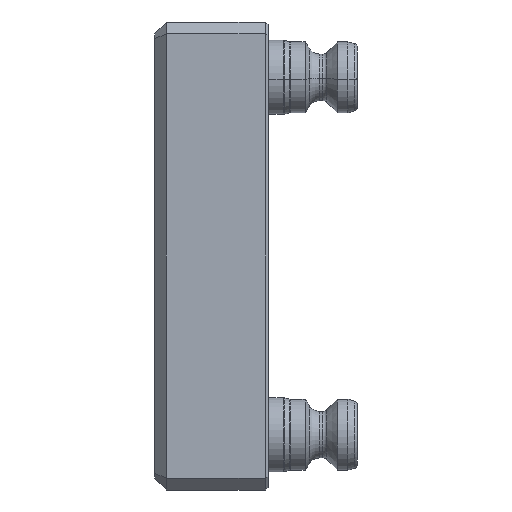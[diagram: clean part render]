
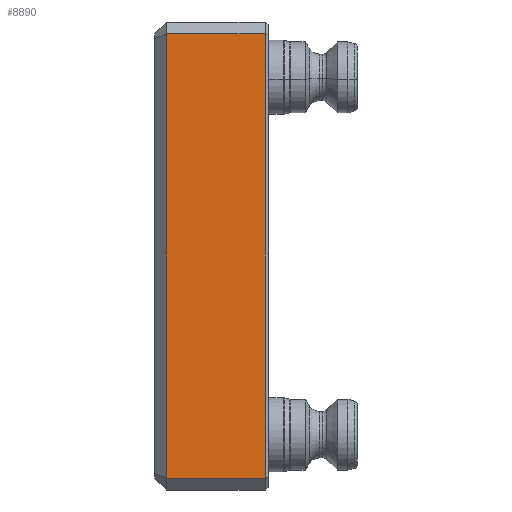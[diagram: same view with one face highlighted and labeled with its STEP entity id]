
A CAD part, left-side view. The second image highlights one B-rep face of the part: STEP entity #8890.
In plain terms, the highlighted planar face has unit normal (-1, 0, 0).
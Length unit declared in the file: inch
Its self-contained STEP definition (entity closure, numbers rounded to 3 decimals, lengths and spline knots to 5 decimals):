
#181 = DIRECTION ( 'NONE',  ( 0., 0., 1. ) ) ;
#211 = ORIENTED_EDGE ( 'NONE', *, *, #5646, .T. ) ;
#510 = CARTESIAN_POINT ( 'NONE',  ( -2.475, 1.075, 2.475 ) ) ;
#854 = EDGE_CURVE ( 'NONE', #11032, #1018, #2217, .T. ) ;
#1018 = VERTEX_POINT ( 'NONE', #2965 ) ;
#1046 = VERTEX_POINT ( 'NONE', #1327 ) ;
#1192 = VECTOR ( 'NONE', #4242, 39.37008 ) ;
#1327 = CARTESIAN_POINT ( 'NONE',  ( -2.475, 1.075, -2.35 ) ) ;
#2217 = LINE ( 'NONE', #9568, #8736 ) ;
#2965 = CARTESIAN_POINT ( 'NONE',  ( -2.475, 0.03, 2.35 ) ) ;
#3387 = CARTESIAN_POINT ( 'NONE',  ( -2.475, 1.2, -2.35 ) ) ;
#3898 = ORIENTED_EDGE ( 'NONE', *, *, #10325, .T. ) ;
#3973 = CARTESIAN_POINT ( 'NONE',  ( -2.475, 1.2, 2.35 ) ) ;
#4242 = DIRECTION ( 'NONE',  ( 0., -1., 0. ) ) ;
#4264 = LINE ( 'NONE', #510, #10539 ) ;
#4903 = PLANE ( 'NONE',  #9824 ) ;
#4983 = DIRECTION ( 'NONE',  ( 1., 0., 0. ) ) ;
#5470 = EDGE_LOOP ( 'NONE', ( #10140, #211, #3898, #9298 ) ) ;
#5621 = DIRECTION ( 'NONE',  ( 0., 0., -1. ) ) ;
#5646 = EDGE_CURVE ( 'NONE', #7479, #1046, #4264, .T. ) ;
#5681 = EDGE_CURVE ( 'NONE', #1018, #7479, #8251, .T. ) ;
#5699 = LINE ( 'NONE', #3387, #1192 ) ;
#7479 = VERTEX_POINT ( 'NONE', #7806 ) ;
#7806 = CARTESIAN_POINT ( 'NONE',  ( -2.475, 1.075, 2.35 ) ) ;
#8251 = LINE ( 'NONE', #3973, #10268 ) ;
#8493 = CARTESIAN_POINT ( 'NONE',  ( -2.475, 0.03, -2.35 ) ) ;
#8736 = VECTOR ( 'NONE', #181, 39.37008 ) ;
#8890 = ADVANCED_FACE ( 'NONE', ( #10662 ), #4903, .F. ) ;
#9298 = ORIENTED_EDGE ( 'NONE', *, *, #854, .T. ) ;
#9568 = CARTESIAN_POINT ( 'NONE',  ( -2.475, 0.03, 2.35 ) ) ;
#9824 = AXIS2_PLACEMENT_3D ( 'NONE', #10089, #4983, #10963 ) ;
#9932 = DIRECTION ( 'NONE',  ( 0., 1., 0. ) ) ;
#10089 = CARTESIAN_POINT ( 'NONE',  ( -2.475, 1.2, 2.475 ) ) ;
#10140 = ORIENTED_EDGE ( 'NONE', *, *, #5681, .T. ) ;
#10268 = VECTOR ( 'NONE', #9932, 39.37008 ) ;
#10325 = EDGE_CURVE ( 'NONE', #1046, #11032, #5699, .T. ) ;
#10539 = VECTOR ( 'NONE', #5621, 39.37008 ) ;
#10662 = FACE_OUTER_BOUND ( 'NONE', #5470, .T. ) ;
#10963 = DIRECTION ( 'NONE',  ( 0., 0., -1. ) ) ;
#11032 = VERTEX_POINT ( 'NONE', #8493 ) ;
